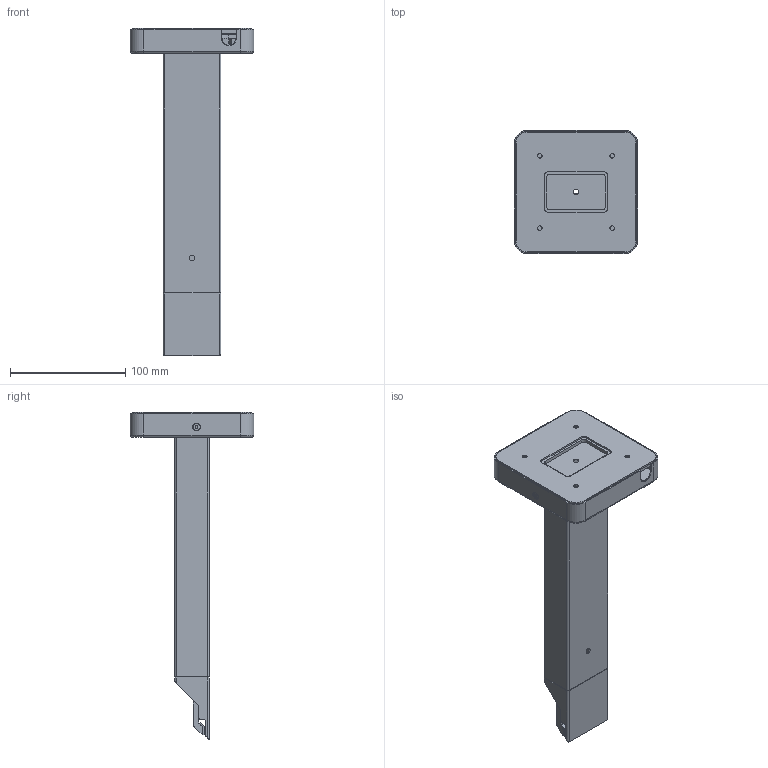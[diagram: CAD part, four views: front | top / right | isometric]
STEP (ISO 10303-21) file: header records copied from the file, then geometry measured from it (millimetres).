
FILE_DESCRIPTION (( 'STEP AP203' ), '1' );
FILE_NAME ('WALL ARM 12IN.STEP', '2023-05-25T19:38:02', ( '' ), ( '' ), 'SwSTEP 2.0', 'SolidWorks 2022', '' );
FILE_SCHEMA (( 'CONFIG_CONTROL_DESIGN' ));
Length unit declared in the file: millimetre
Products named in the file (19): BKT-000519-00; WALL ARM 12IN; SCW-000533-00; NUT-000074-00_NUT-000074-00; HLD-000105-XX_HLD-000105-01; SCW-000539-00_SCW-000539-00; PLA-000078-00; GSK-000106-00; PLA-000089-00; CVR-000839-00; GSK-000109-00; ASY-006788-XX_ASY-006788-2Y (12IN); BKT-000511-00; SCW-000538-00_SCW-000538-00; GSK-000107-00; BAS-000024-00; ASY-006791-00; ASY-006795-00; MCP-000396-00
Assembly tree (32 placements, depth 3):
  WALL ARM 12IN
    ASY-006788-XX_ASY-006788-2Y (12IN)
      BKT-000511-00
      HLD-000105-XX_HLD-000105-01
      PLA-000089-00  x4
    MCP-000396-00
    ASY-006795-00
      PLA-000078-00
      GSK-000107-00
    SCW-000539-00_SCW-000539-00  x4
    ASY-006791-00
      BAS-000024-00
      SCW-000533-00  x4
      BKT-000519-00  x2
    CVR-000839-00
    NUT-000074-00_NUT-000074-00  x4
    GSK-000106-00
    SCW-000538-00_SCW-000538-00  x2
    GSK-000109-00
Bounding box: 107.5 x 107.5 x 284.5 mm (x, y, z)
Volume: 176111.4 mm3; surface area: 195832 mm2
Topology: 29 solids, 37 shells, 1449 faces, 3730 edges, 2361 vertices
Faces by surface type: cylinder 586, plane 405, cone 232, bspline 156, torus 70
Entity records: 37661 total; most frequent: CARTESIAN_POINT 15927, ORIENTED_EDGE 4129, DIRECTION 4024, EDGE_CURVE 2070, AXIS2_PLACEMENT_3D 1514, VERTEX_POINT 1325, LINE 996, VECTOR 996
